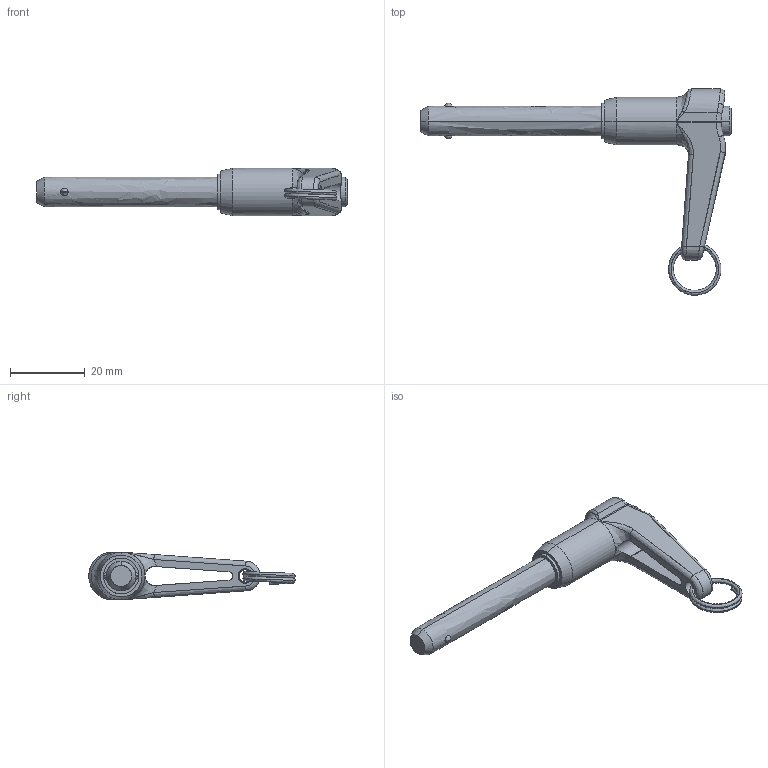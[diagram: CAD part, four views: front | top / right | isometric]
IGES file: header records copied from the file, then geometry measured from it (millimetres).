
Start section: SolidWorks IGES file using analytic representation for surfaces
Global section: file name: C:\Documents and Settings\IANO\My Documents\Wix and Auto CAD Work\CAD Models\Parametric Models\Wix Models\30000\33620_v2\33620_v2_20160606_IGES\33620.C016.igs; native system: SolidWorks 2009; preprocessor: SolidWorks 2009; author: IANO; date: 160615.125808; units: inch
Bounding box: 82.89 x 55.09 x 12.7 mm (x, y, z)
Surface area: 5959.4 mm2 (no closed solid volume)
Topology: 0 solids, 0 shells, 85 faces, 1226 edges, 1224 vertices
Faces by surface type: bspline 55, revolution 30
